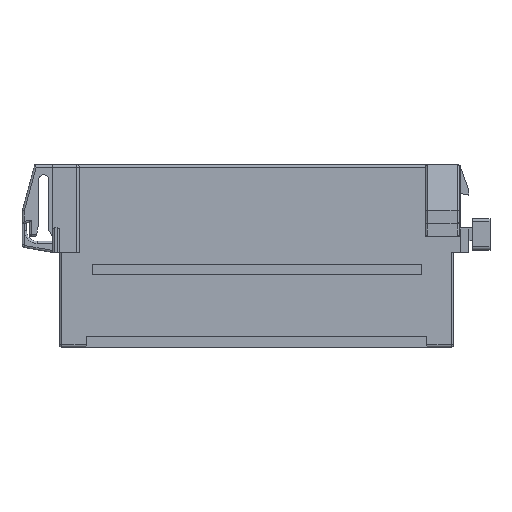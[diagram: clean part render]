
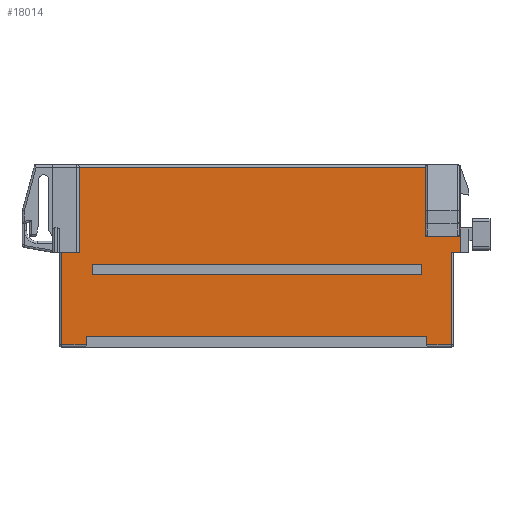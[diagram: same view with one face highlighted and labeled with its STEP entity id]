
A CAD part, front view. The second image highlights one B-rep face of the part: STEP entity #18014.
In plain terms, the highlighted planar face has unit normal (0, -1, 0).
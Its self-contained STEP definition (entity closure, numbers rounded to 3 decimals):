
#168=DIRECTION('',(-1.,0.,0.));
#169=VECTOR('',#168,0.2);
#170=CARTESIAN_POINT('',(28.85,-6.9,10.));
#171=LINE('',#170,#169);
#2614=DIRECTION('',(0.,0.,-1.));
#2615=VECTOR('',#2614,1.2);
#2616=CARTESIAN_POINT('',(24.3,-6.9,-14.5));
#2617=LINE('',#2616,#2615);
#2979=DIRECTION('',(1.,0.,0.));
#2980=VECTOR('',#2979,48.6);
#2981=CARTESIAN_POINT('',(-24.3,-6.9,-14.5));
#2982=LINE('',#2981,#2980);
#2983=DIRECTION('',(-1.,0.,0.));
#2984=VECTOR('',#2983,3.55);
#2985=CARTESIAN_POINT('',(-24.3,-6.9,-15.7));
#2986=LINE('',#2985,#2984);
#2987=DIRECTION('',(0.,0.,-1.));
#2988=VECTOR('',#2987,13.2);
#2989=CARTESIAN_POINT('',(-27.85,-6.9,-2.5));
#2990=LINE('',#2989,#2988);
#2991=DIRECTION('',(0.,0.,1.));
#2992=VECTOR('',#2991,12.2);
#2993=CARTESIAN_POINT('',(-25.35,-6.9,-2.5));
#2994=LINE('',#2993,#2992);
#2995=DIRECTION('',(1.,0.,0.));
#2996=VECTOR('',#2995,49.5);
#2997=CARTESIAN_POINT('',(-25.35,-6.9,9.7));
#2998=LINE('',#2997,#2996);
#2999=DIRECTION('',(0.,0.,-1.));
#3000=VECTOR('',#2999,9.9);
#3001=CARTESIAN_POINT('',(24.15,-6.9,9.7));
#3002=LINE('',#3001,#3000);
#3003=DIRECTION('',(-1.,0.,0.));
#3004=VECTOR('',#3003,4.8);
#3005=CARTESIAN_POINT('',(28.95,-6.9,-0.2));
#3006=LINE('',#3005,#3004);
#3007=DIRECTION('',(0.,0.,-1.));
#3008=VECTOR('',#3007,9.9);
#3009=CARTESIAN_POINT('',(28.95,-6.9,9.7));
#3010=LINE('',#3009,#3008);
#3011=CARTESIAN_POINT('',(28.85,-6.9,9.7));
#3012=DIRECTION('',(0.,1.,0.));
#3013=DIRECTION('',(0.,0.,1.));
#3014=AXIS2_PLACEMENT_3D('',#3011,#3012,#3013);
#3016=DIRECTION('',(0.,0.,1.));
#3017=VECTOR('',#3016,3.5);
#3018=CARTESIAN_POINT('',(29.15,-6.9,-2.5));
#3019=LINE('',#3018,#3017);
#3020=DIRECTION('',(0.,0.,-1.));
#3021=VECTOR('',#3020,13.2);
#3022=CARTESIAN_POINT('',(27.85,-6.9,-2.5));
#3023=LINE('',#3022,#3021);
#3024=DIRECTION('',(-1.,0.,0.));
#3025=VECTOR('',#3024,3.55);
#3026=CARTESIAN_POINT('',(27.85,-6.9,-15.7));
#3027=LINE('',#3026,#3025);
#3028=DIRECTION('',(-1.,0.,0.));
#3029=VECTOR('',#3028,47.);
#3030=CARTESIAN_POINT('',(23.5,-6.9,-5.7));
#3031=LINE('',#3030,#3029);
#3032=DIRECTION('',(0.,0.,-1.));
#3033=VECTOR('',#3032,1.45);
#3034=CARTESIAN_POINT('',(23.5,-6.9,-4.25));
#3035=LINE('',#3034,#3033);
#3036=DIRECTION('',(-1.,0.,0.));
#3037=VECTOR('',#3036,47.);
#3038=CARTESIAN_POINT('',(23.5,-6.9,-4.25));
#3039=LINE('',#3038,#3037);
#3040=DIRECTION('',(0.,0.,-1.));
#3041=VECTOR('',#3040,1.45);
#3042=CARTESIAN_POINT('',(-23.5,-6.9,-4.25));
#3043=LINE('',#3042,#3041);
#3044=DIRECTION('',(0.,0.,1.));
#3045=VECTOR('',#3044,1.2);
#3046=CARTESIAN_POINT('',(-24.3,-6.9,-15.7));
#3047=LINE('',#3046,#3045);
#6670=DIRECTION('',(-1.,0.,0.));
#6671=VECTOR('',#6670,2.5);
#6672=CARTESIAN_POINT('',(-25.35,-6.9,-2.5));
#6673=LINE('',#6672,#6671);
#6768=DIRECTION('',(1.,0.,0.));
#6769=VECTOR('',#6768,1.3);
#6770=CARTESIAN_POINT('',(27.85,-6.9,-2.5));
#6771=LINE('',#6770,#6769);
#7655=DIRECTION('',(0.,0.,1.));
#7656=VECTOR('',#7655,8.7);
#7657=CARTESIAN_POINT('',(29.15,-6.9,1.));
#7658=LINE('',#7657,#7656);
#8022=CARTESIAN_POINT('',(28.65,-6.9,9.7));
#8023=DIRECTION('',(0.,1.,0.));
#8024=DIRECTION('',(0.,0.,1.));
#8025=AXIS2_PLACEMENT_3D('',#8022,#8023,#8024);
#11722=CARTESIAN_POINT('',(28.95,-6.9,-0.2));
#11723=CARTESIAN_POINT('',(24.15,-6.9,-0.2));
#11724=VERTEX_POINT('',#11722);
#11725=VERTEX_POINT('',#11723);
#11786=CARTESIAN_POINT('',(29.15,-6.9,-2.5));
#11787=CARTESIAN_POINT('',(29.15,-6.9,1.));
#11788=VERTEX_POINT('',#11786);
#11789=VERTEX_POINT('',#11787);
#12314=CARTESIAN_POINT('',(28.95,-6.9,9.7));
#12316=VERTEX_POINT('',#12314);
#12318=CARTESIAN_POINT('',(28.65,-6.9,10.));
#12320=VERTEX_POINT('',#12318);
#12370=CARTESIAN_POINT('',(24.15,-6.9,9.7));
#12371=VERTEX_POINT('',#12370);
#12374=CARTESIAN_POINT('',(-25.35,-6.9,9.7));
#12375=VERTEX_POINT('',#12374);
#12382=CARTESIAN_POINT('',(28.85,-6.9,10.));
#12383=VERTEX_POINT('',#12382);
#12582=CARTESIAN_POINT('',(29.15,-6.9,9.7));
#12584=VERTEX_POINT('',#12582);
#12590=CARTESIAN_POINT('',(27.85,-6.9,-2.5));
#12591=CARTESIAN_POINT('',(27.85,-6.9,-15.7));
#12592=VERTEX_POINT('',#12590);
#12593=VERTEX_POINT('',#12591);
#12628=CARTESIAN_POINT('',(-27.85,-6.9,-2.5));
#12629=CARTESIAN_POINT('',(-27.85,-6.9,-15.7));
#12630=VERTEX_POINT('',#12628);
#12631=VERTEX_POINT('',#12629);
#12634=CARTESIAN_POINT('',(-25.35,-6.9,-2.5));
#12635=VERTEX_POINT('',#12634);
#12767=CARTESIAN_POINT('',(24.3,-6.9,-15.7));
#12769=VERTEX_POINT('',#12767);
#12771=CARTESIAN_POINT('',(-24.3,-6.9,-15.7));
#12773=VERTEX_POINT('',#12771);
#12834=CARTESIAN_POINT('',(-24.3,-6.9,-14.5));
#12835=CARTESIAN_POINT('',(24.3,-6.9,-14.5));
#12836=VERTEX_POINT('',#12834);
#12837=VERTEX_POINT('',#12835);
#12846=CARTESIAN_POINT('',(23.5,-6.9,-5.7));
#12847=CARTESIAN_POINT('',(-23.5,-6.9,-5.7));
#12848=VERTEX_POINT('',#12846);
#12849=VERTEX_POINT('',#12847);
#12850=CARTESIAN_POINT('',(-23.5,-6.9,-4.25));
#12851=VERTEX_POINT('',#12850);
#12852=CARTESIAN_POINT('',(23.5,-6.9,-4.25));
#12853=VERTEX_POINT('',#12852);
#17962=CARTESIAN_POINT('',(-25.35,-6.9,10.));
#17963=DIRECTION('',(0.,-1.,0.));
#17964=DIRECTION('',(1.,0.,0.));
#17965=AXIS2_PLACEMENT_3D('',#17962,#17963,#17964);
#17966=PLANE('',#17965);
#17967=ORIENTED_EDGE('',*,*,#17940,.F.);
#17969=ORIENTED_EDGE('',*,*,#17968,.F.);
#17971=ORIENTED_EDGE('',*,*,#17970,.T.);
#17973=ORIENTED_EDGE('',*,*,#17972,.F.);
#17975=ORIENTED_EDGE('',*,*,#17974,.F.);
#17977=ORIENTED_EDGE('',*,*,#17976,.T.);
#17979=ORIENTED_EDGE('',*,*,#17978,.T.);
#17981=ORIENTED_EDGE('',*,*,#17980,.T.);
#17983=ORIENTED_EDGE('',*,*,#17982,.F.);
#17985=ORIENTED_EDGE('',*,*,#17984,.F.);
#17987=ORIENTED_EDGE('',*,*,#17986,.F.);
#17988=ORIENTED_EDGE('',*,*,#15349,.F.);
#17990=ORIENTED_EDGE('',*,*,#17989,.T.);
#17992=ORIENTED_EDGE('',*,*,#17991,.F.);
#17994=ORIENTED_EDGE('',*,*,#17993,.F.);
#17996=ORIENTED_EDGE('',*,*,#17995,.F.);
#17998=ORIENTED_EDGE('',*,*,#17997,.T.);
#18000=ORIENTED_EDGE('',*,*,#17999,.T.);
#18001=ORIENTED_EDGE('',*,*,#17393,.F.);
#18002=EDGE_LOOP('',(#17967,#17969,#17971,#17973,#17975,#17977,#17979,#17981,
#17983,#17985,#17987,#17988,#17990,#17992,#17994,#17996,#17998,#18000,#18001));
#18003=FACE_OUTER_BOUND('',#18002,.F.);
#18005=ORIENTED_EDGE('',*,*,#18004,.F.);
#18007=ORIENTED_EDGE('',*,*,#18006,.F.);
#18009=ORIENTED_EDGE('',*,*,#18008,.T.);
#18011=ORIENTED_EDGE('',*,*,#18010,.T.);
#18012=EDGE_LOOP('',(#18005,#18007,#18009,#18011));
#18013=FACE_BOUND('',#18012,.F.);
#18014=ADVANCED_FACE('',(#18003,#18013),#17966,.T.);
#3015=CIRCLE('',#3014,0.3);
#8026=CIRCLE('',#8025,0.3);
#15349=EDGE_CURVE('',#12383,#12320,#171,.T.);
#17393=EDGE_CURVE('',#12837,#12769,#2617,.T.);
#17940=EDGE_CURVE('',#12836,#12837,#2982,.T.);
#17968=EDGE_CURVE('',#12773,#12836,#3047,.T.);
#17970=EDGE_CURVE('',#12773,#12631,#2986,.T.);
#17972=EDGE_CURVE('',#12630,#12631,#2990,.T.);
#17974=EDGE_CURVE('',#12635,#12630,#6673,.T.);
#17976=EDGE_CURVE('',#12635,#12375,#2994,.T.);
#17978=EDGE_CURVE('',#12375,#12371,#2998,.T.);
#17980=EDGE_CURVE('',#12371,#11725,#3002,.T.);
#17982=EDGE_CURVE('',#11724,#11725,#3006,.T.);
#17984=EDGE_CURVE('',#12316,#11724,#3010,.T.);
#17986=EDGE_CURVE('',#12320,#12316,#8026,.T.);
#17989=EDGE_CURVE('',#12383,#12584,#3015,.T.);
#17991=EDGE_CURVE('',#11789,#12584,#7658,.T.);
#17993=EDGE_CURVE('',#11788,#11789,#3019,.T.);
#17995=EDGE_CURVE('',#12592,#11788,#6771,.T.);
#17997=EDGE_CURVE('',#12592,#12593,#3023,.T.);
#17999=EDGE_CURVE('',#12593,#12769,#3027,.T.);
#18004=EDGE_CURVE('',#12848,#12849,#3031,.T.);
#18006=EDGE_CURVE('',#12853,#12848,#3035,.T.);
#18008=EDGE_CURVE('',#12853,#12851,#3039,.T.);
#18010=EDGE_CURVE('',#12851,#12849,#3043,.T.);
